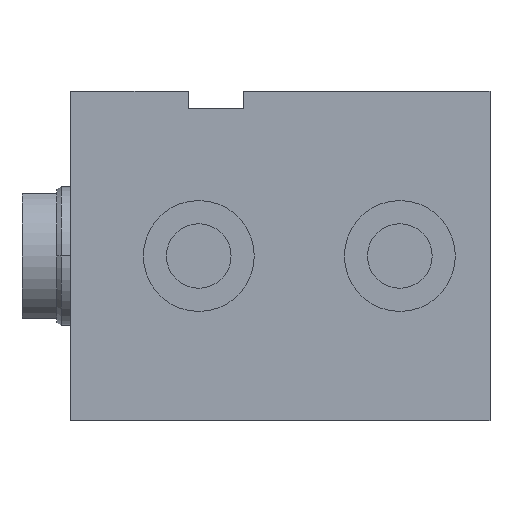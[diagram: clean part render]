
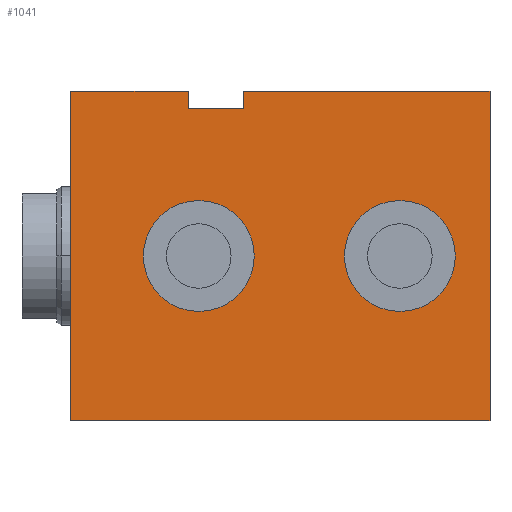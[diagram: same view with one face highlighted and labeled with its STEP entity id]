
A CAD part, left-side view. The second image highlights one B-rep face of the part: STEP entity #1041.
In plain terms, the highlighted planar face has unit normal (-1, 0, 0).
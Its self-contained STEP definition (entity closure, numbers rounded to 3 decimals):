
#33 = CIRCLE ( 'NONE', #727, 16. ) ;
#47 = FACE_BOUND ( 'NONE', #224, .T. ) ;
#91 = VERTEX_POINT ( 'NONE', #1826 ) ;
#120 = CIRCLE ( 'NONE', #1966, 16. ) ;
#140 = VECTOR ( 'NONE', #762, 1000. ) ;
#160 = EDGE_CURVE ( 'NONE', #2349, #1127, #2695, .T. ) ;
#222 = CARTESIAN_POINT ( 'NONE',  ( -62.5, 84., 0. ) ) ;
#224 = EDGE_LOOP ( 'NONE', ( #354, #934 ) ) ;
#251 = DIRECTION ( 'NONE',  ( -1., 0., 0. ) ) ;
#257 = EDGE_CURVE ( 'NONE', #418, #1974, #660, .T. ) ;
#301 = CARTESIAN_POINT ( 'NONE',  ( -62.5, 0., -47.5 ) ) ;
#354 = ORIENTED_EDGE ( 'NONE', *, *, #1100, .F. ) ;
#362 = ORIENTED_EDGE ( 'NONE', *, *, #1271, .F. ) ;
#414 = PLANE ( 'NONE',  #1675 ) ;
#418 = VERTEX_POINT ( 'NONE', #2908 ) ;
#441 = CARTESIAN_POINT ( 'NONE',  ( -62.5, 26., -16. ) ) ;
#448 = DIRECTION ( 'NONE',  ( 0., 0., 1. ) ) ;
#486 = EDGE_CURVE ( 'NONE', #2715, #1974, #836, .T. ) ;
#547 = EDGE_CURVE ( 'NONE', #2349, #606, #1874, .T. ) ;
#571 = ORIENTED_EDGE ( 'NONE', *, *, #160, .F. ) ;
#606 = VERTEX_POINT ( 'NONE', #1977 ) ;
#660 = LINE ( 'NONE', #1175, #1847 ) ;
#727 = AXIS2_PLACEMENT_3D ( 'NONE', #222, #251, #448 ) ;
#736 = CARTESIAN_POINT ( 'NONE',  ( -62.5, 84., 0. ) ) ;
#762 = DIRECTION ( 'NONE',  ( 0., 0., 1. ) ) ;
#803 = LINE ( 'NONE', #2830, #2758 ) ;
#836 = LINE ( 'NONE', #2567, #140 ) ;
#865 = CARTESIAN_POINT ( 'NONE',  ( -62.5, 87., 42.5 ) ) ;
#870 = CIRCLE ( 'NONE', #1410, 16. ) ;
#886 = ORIENTED_EDGE ( 'NONE', *, *, #486, .T. ) ;
#908 = DIRECTION ( 'NONE',  ( -1., 0., 0. ) ) ;
#922 = DIRECTION ( 'NONE',  ( 0., 0., 1. ) ) ;
#934 = ORIENTED_EDGE ( 'NONE', *, *, #1429, .F. ) ;
#963 = EDGE_CURVE ( 'NONE', #1040, #606, #2744, .T. ) ;
#980 = CARTESIAN_POINT ( 'NONE',  ( -62.5, 71., 42.5 ) ) ;
#998 = CIRCLE ( 'NONE', #1049, 16. ) ;
#1040 = VERTEX_POINT ( 'NONE', #1587 ) ;
#1041 = ADVANCED_FACE ( 'NONE', ( #1936, #47, #2463 ), #414, .F. ) ;
#1049 = AXIS2_PLACEMENT_3D ( 'NONE', #736, #908, #922 ) ;
#1097 = VERTEX_POINT ( 'NONE', #2320 ) ;
#1100 = EDGE_CURVE ( 'NONE', #1817, #2870, #120, .T. ) ;
#1103 = DIRECTION ( 'NONE',  ( 1., 0., 0. ) ) ;
#1127 = VERTEX_POINT ( 'NONE', #980 ) ;
#1129 = VECTOR ( 'NONE', #1859, 1000. ) ;
#1175 = CARTESIAN_POINT ( 'NONE',  ( -62.5, 91., 47.5 ) ) ;
#1197 = LINE ( 'NONE', #2811, #1129 ) ;
#1262 = DIRECTION ( 'NONE',  ( 0., 0., 1. ) ) ;
#1271 = EDGE_CURVE ( 'NONE', #2489, #1040, #803, .T. ) ;
#1334 = VECTOR ( 'NONE', #1262, 1000. ) ;
#1349 = VECTOR ( 'NONE', #2211, 1000. ) ;
#1410 = AXIS2_PLACEMENT_3D ( 'NONE', #2912, #2921, #2940 ) ;
#1429 = EDGE_CURVE ( 'NONE', #2870, #1817, #870, .T. ) ;
#1434 = DIRECTION ( 'NONE',  ( 0., 0., 1. ) ) ;
#1460 = EDGE_CURVE ( 'NONE', #1127, #418, #1997, .T. ) ;
#1470 = DIRECTION ( 'NONE',  ( 0., -1., 0. ) ) ;
#1587 = CARTESIAN_POINT ( 'NONE',  ( -62.5, 121., 47.5 ) ) ;
#1620 = CARTESIAN_POINT ( 'NONE',  ( -62.5, 91., 47.5 ) ) ;
#1638 = EDGE_CURVE ( 'NONE', #91, #1097, #33, .T. ) ;
#1650 = EDGE_CURVE ( 'NONE', #1097, #91, #998, .T. ) ;
#1672 = ORIENTED_EDGE ( 'NONE', *, *, #257, .F. ) ;
#1675 = AXIS2_PLACEMENT_3D ( 'NONE', #2992, #1103, #2507 ) ;
#1679 = CARTESIAN_POINT ( 'NONE',  ( -62.5, 26., 0. ) ) ;
#1792 = EDGE_CURVE ( 'NONE', #2489, #2715, #1197, .T. ) ;
#1817 = VERTEX_POINT ( 'NONE', #2209 ) ;
#1826 = CARTESIAN_POINT ( 'NONE',  ( -62.5, 84., 16. ) ) ;
#1833 = ORIENTED_EDGE ( 'NONE', *, *, #1638, .F. ) ;
#1845 = CARTESIAN_POINT ( 'NONE',  ( -62.5, 121., -47.5 ) ) ;
#1847 = VECTOR ( 'NONE', #1470, 1000. ) ;
#1859 = DIRECTION ( 'NONE',  ( 0., -1., 0. ) ) ;
#1874 = LINE ( 'NONE', #2380, #3050 ) ;
#1936 = FACE_OUTER_BOUND ( 'NONE', #2505, .T. ) ;
#1966 = AXIS2_PLACEMENT_3D ( 'NONE', #1679, #2868, #1434 ) ;
#1974 = VERTEX_POINT ( 'NONE', #2749 ) ;
#1977 = CARTESIAN_POINT ( 'NONE',  ( -62.5, 87., 47.5 ) ) ;
#1997 = LINE ( 'NONE', #2945, #1334 ) ;
#2031 = CARTESIAN_POINT ( 'NONE',  ( -62.5, 87., 42.5 ) ) ;
#2074 = ORIENTED_EDGE ( 'NONE', *, *, #1792, .T. ) ;
#2109 = EDGE_LOOP ( 'NONE', ( #1833, #2905 ) ) ;
#2209 = CARTESIAN_POINT ( 'NONE',  ( -62.5, 26., 16. ) ) ;
#2211 = DIRECTION ( 'NONE',  ( 0., -1., 0. ) ) ;
#2272 = VECTOR ( 'NONE', #3017, 1000. ) ;
#2301 = ORIENTED_EDGE ( 'NONE', *, *, #1460, .F. ) ;
#2320 = CARTESIAN_POINT ( 'NONE',  ( -62.5, 84., -16. ) ) ;
#2349 = VERTEX_POINT ( 'NONE', #865 ) ;
#2380 = CARTESIAN_POINT ( 'NONE',  ( -62.5, 87., 42.5 ) ) ;
#2389 = DIRECTION ( 'NONE',  ( 0., 0., 1. ) ) ;
#2445 = ORIENTED_EDGE ( 'NONE', *, *, #547, .T. ) ;
#2463 = FACE_BOUND ( 'NONE', #2109, .T. ) ;
#2489 = VERTEX_POINT ( 'NONE', #1845 ) ;
#2505 = EDGE_LOOP ( 'NONE', ( #1672, #2301, #571, #2445, #2777, #362, #2074, #886 ) ) ;
#2507 = DIRECTION ( 'NONE',  ( 0., 0., -1. ) ) ;
#2567 = CARTESIAN_POINT ( 'NONE',  ( -62.5, 0., -47.5 ) ) ;
#2573 = DIRECTION ( 'NONE',  ( 0., 0., 1. ) ) ;
#2695 = LINE ( 'NONE', #2031, #1349 ) ;
#2715 = VERTEX_POINT ( 'NONE', #301 ) ;
#2744 = LINE ( 'NONE', #1620, #2272 ) ;
#2749 = CARTESIAN_POINT ( 'NONE',  ( -62.5, 0., 47.5 ) ) ;
#2758 = VECTOR ( 'NONE', #2573, 1000. ) ;
#2777 = ORIENTED_EDGE ( 'NONE', *, *, #963, .F. ) ;
#2811 = CARTESIAN_POINT ( 'NONE',  ( -62.5, 91., -47.5 ) ) ;
#2830 = CARTESIAN_POINT ( 'NONE',  ( -62.5, 121., -47.5 ) ) ;
#2868 = DIRECTION ( 'NONE',  ( -1., 0., 0. ) ) ;
#2870 = VERTEX_POINT ( 'NONE', #441 ) ;
#2905 = ORIENTED_EDGE ( 'NONE', *, *, #1650, .F. ) ;
#2908 = CARTESIAN_POINT ( 'NONE',  ( -62.5, 71., 47.5 ) ) ;
#2912 = CARTESIAN_POINT ( 'NONE',  ( -62.5, 26., 0. ) ) ;
#2921 = DIRECTION ( 'NONE',  ( -1., 0., 0. ) ) ;
#2940 = DIRECTION ( 'NONE',  ( 0., 0., 1. ) ) ;
#2945 = CARTESIAN_POINT ( 'NONE',  ( -62.5, 71., 42.5 ) ) ;
#2992 = CARTESIAN_POINT ( 'NONE',  ( -62.5, 91., -47.5 ) ) ;
#3017 = DIRECTION ( 'NONE',  ( 0., -1., 0. ) ) ;
#3050 = VECTOR ( 'NONE', #2389, 1000. ) ;
